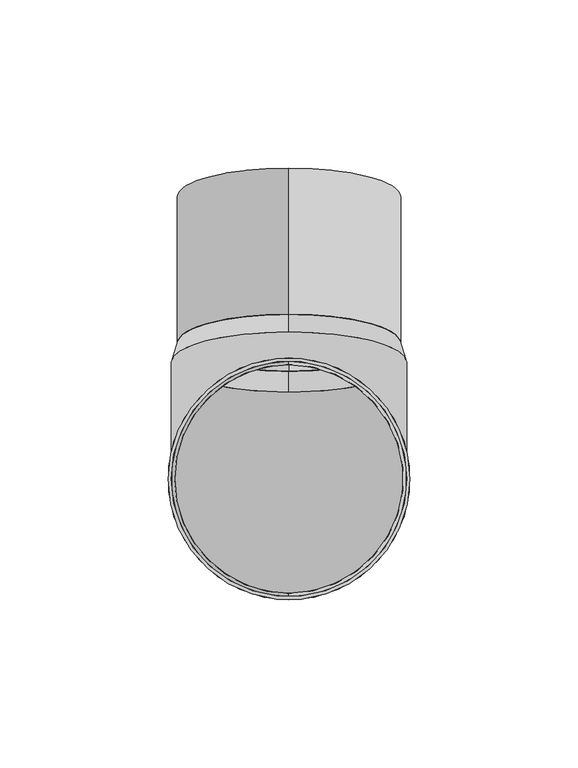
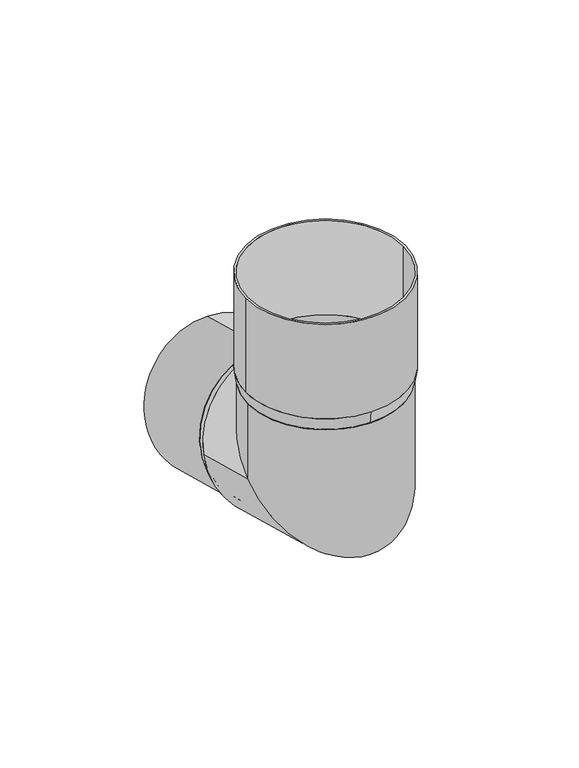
"""IFC4 building model written with IfcOpenShell, lengths in millimetres: proxy geometry, GROVIK_Downpipe_Knee : N70_75°_Down."""

from ifc_helpers import new_model, si_unit, point, frame, origin, origin_with_axes, origin_2d, place, context, project, spatial, polyline, circle_curve, ellipse_curve, trimmed, segment, composite_curve, outline, extrude, source, transform, mapped, element, save
from ifc_brep_helpers import plane_surface, cylinder_surface, revolved_surface, advanced_brep


def generic_models_13b54067(model_context):
    return source(origin(), model_context, "Body", "SolidModel", [
        extrude(outline(composite_curve([segment(trimmed(circle_curve(origin_2d(), 36.0), [point((-36.0, 0.0))], [point((36.0, 0.0))], False, "CARTESIAN"), True, "CONTINUOUS"), segment(trimmed(circle_curve(origin_2d(), 36.0), [point((36.0, 0.0))], [point((-36.0, 0.0))], False, "CARTESIAN"), True, "CONTINUOUS")], self_intersect=False), holes=[composite_curve([segment(trimmed(circle_curve(origin_2d(), 35.0), [point((-35.0, 0.0))], [point((35.0, 0.0))], True, "CARTESIAN"), True, "CONTINUOUS"), segment(trimmed(circle_curve(origin_2d(), 35.0), [point((35.0, 0.0))], [point((-35.0, 0.0))], True, "CARTESIAN"), True, "CONTINUOUS")], self_intersect=False)]), frame((0.0, 0.0, 6.0), z_axis=(0.0, 0.0, 1.0), x_axis=(1.0, 0.0, 0.0)), (0.0, 0.0, 1.0), 45.0),
        advanced_brep(
        [(-35.0, 0.0, 0.0), (35.0, 0.0, 0.0), (-34.0, 0.0, 0.0), (34.0, 0.0, 0.0), (-34.0, 0.0, -35.9), (34.0, 0.0, -35.9), (-35.0, 0.0, -35.9), (35.0, 0.0, -35.9), (-35.0, 34.6767372, -45.1916037), (35.0, 34.6767372, -45.1916037), (-34.0, 34.6767372, -45.1916037), (34.0, 34.6767372, -45.1916037)],
        [
            (0, 1, circle_curve(origin_with_axes(), 35.0)),
            (1, 0, circle_curve(origin_with_axes(), 35.0)),
            (2, 3, circle_curve(frame((0.0, 0.0, 0.0), z_axis=(0.0, 0.0, -1.0), x_axis=(1.0, 0.0, 0.0)), 34.0)),
            (3, 2, circle_curve(frame((0.0, 0.0, 0.0), z_axis=(0.0, 0.0, -1.0), x_axis=(1.0, 0.0, 0.0)), 34.0)),
            (2, 4),
            (4, 5, ellipse_curve(frame((0.0, 0.0, -35.9), z_axis=(0.0, 0.6087614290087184, -0.7933533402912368), x_axis=(0.0, -0.7933533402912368, -0.6087614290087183)), 42.8560621, 34.0)),
            (5, 3),
            (5, 4, ellipse_curve(frame((0.0, 0.0, -35.9), z_axis=(0.0, 0.6087614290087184, -0.7933533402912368), x_axis=(0.0, -0.7933533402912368, -0.6087614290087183)), 42.8560621, 34.0)),
            (0, 6),
            (6, 7, ellipse_curve(frame((0.0, 0.0, -35.9), z_axis=(0.0, -0.6087614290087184, 0.7933533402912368), x_axis=(0.0, 0.7933533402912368, 0.6087614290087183)), 44.1165345, 35.0)),
            (7, 1),
            (7, 6, ellipse_curve(frame((0.0, 0.0, -35.9), z_axis=(0.0, -0.6087614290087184, 0.7933533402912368), x_axis=(0.0, 0.7933533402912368, 0.6087614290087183)), 44.1165345, 35.0)),
            (8, 9, circle_curve(frame((0.0, 34.6767372, -45.1916037), z_axis=(0.0, 0.9659258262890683, -0.2588190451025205), x_axis=(1.0, 0.0, 0.0)), 35.0)),
            (9, 8, circle_curve(frame((0.0, 34.6767372, -45.1916037), z_axis=(0.0, 0.9659258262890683, -0.2588190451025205), x_axis=(1.0, 0.0, 0.0)), 35.0)),
            (10, 11, circle_curve(frame((0.0, 34.6767372, -45.1916037), z_axis=(0.0, -0.9659258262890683, 0.2588190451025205), x_axis=(1.0, 0.0, 0.0)), 34.0)),
            (11, 10, circle_curve(frame((0.0, 34.6767372, -45.1916037), z_axis=(0.0, -0.9659258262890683, 0.2588190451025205), x_axis=(1.0, 0.0, 0.0)), 34.0)),
            (4, 10),
            (11, 5),
            (6, 8),
            (9, 7),
        ],
        [
            plane_surface(origin_with_axes()),
            revolved_surface(polyline([(34.0, 0.0, -61.989117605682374), (34.0, 0.0, 0.0)]), (0.0, 0.0, 0.0), (0.0, 0.0, -1.0)),
            cylinder_surface(origin_with_axes(), 35.0),
            plane_surface(frame((0.0, 34.6767372, -45.1916037), z_axis=(0.0, 0.9659258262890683, -0.2588190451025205), x_axis=(1.0, 0.0, 0.0))),
            revolved_surface(polyline([(34.0, 34.67673719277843, -45.19160372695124), (34.0, -25.200152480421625, -29.147639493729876)]), (0.0, 0.0, -35.9), (0.0, 0.9659258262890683, -0.2588190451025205)),
            cylinder_surface(frame((0.0, 0.0, -35.9), z_axis=(0.0, -0.9659258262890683, 0.2588190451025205), x_axis=(1.0, 0.0, 0.0)), 35.0),
        ],
        [
            (0, [[1, 2], [3, 4]]),
            (1, [[-3, 5, 6, 7]]),
            (1, [[-4, -7, 8, -5]]),
            (2, [[-1, 9, 10, 11]]),
            (2, [[-2, -11, 12, -9]]),
            (3, [[13, 14], [15, 16]]),
            (4, [[-6, 17, -16, 18]]),
            (4, [[-8, -18, -15, -17]]),
            (5, [[-10, 19, -14, 20]]),
            (5, [[-12, -20, -13, -19]]),
        ],
    ),
        extrude(outline(composite_curve([segment(trimmed(circle_curve(origin_2d(), 33.2), [point((0.0, 33.2))], [point((0.0, -33.2000001))], False, "CARTESIAN"), True, "CONTINUOUS"), segment(trimmed(circle_curve(origin_2d(), 33.2), [point((0.0, -33.2000001))], [point((0.0, 33.2))], False, "CARTESIAN"), True, "CONTINUOUS")], self_intersect=False), holes=[composite_curve([segment(trimmed(circle_curve(origin_2d(), 32.2), [point((0.0, 32.2))], [point((0.0, -32.2))], True, "CARTESIAN"), True, "CONTINUOUS"), segment(trimmed(circle_curve(origin_2d(), 32.2), [point((0.0, -32.2))], [point((0.0, 32.2))], True, "CARTESIAN"), True, "CONTINUOUS")], self_intersect=False)]), frame((0.0, 83.9389543, -58.391375), z_axis=(0.0, -0.9659258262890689, 0.2588190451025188), x_axis=(1.0, 0.0, 0.0)), (0.0, 0.0, 1.0), 45.0),
        advanced_brep(
        [(0.0, 36.0, 6.0), (0.0, -36.0, 6.0), (0.0, 35.0, 6.0), (0.0, -35.0, 6.0), (0.0, 35.0, 0.0), (0.0, -35.0, 0.0), (0.0, -34.0, 0.0), (0.0, 34.0, 0.0)],
        [
            (0, 1, circle_curve(frame((0.0, 0.0, 6.0), z_axis=(0.0, 0.0, 1.0), x_axis=(0.0, 1.0, 0.0)), 36.0)),
            (1, 0, circle_curve(frame((0.0, 0.0, 6.0), z_axis=(0.0, 0.0, 1.0), x_axis=(0.0, -1.0, 0.0)), 36.0)),
            (2, 3, circle_curve(frame((0.0, 0.0, 6.0), z_axis=(0.0, 0.0, -1.0), x_axis=(0.0, -1.0, 0.0)), 35.0)),
            (3, 2, circle_curve(frame((0.0, 0.0, 6.0), z_axis=(0.0, 0.0, -1.0), x_axis=(0.0, 1.0, 0.0)), 35.0)),
            (4, 5, circle_curve(frame((0.0, 0.0, 0.0), z_axis=(0.0, 0.0, -1.0), x_axis=(0.0, -1.0, 0.0)), 35.0)),
            (5, 4, circle_curve(frame((0.0, 0.0, 0.0), z_axis=(0.0, 0.0, -1.0), x_axis=(0.0, 1.0, 0.0)), 35.0)),
            (6, 7, circle_curve(frame((0.0, 0.0, 0.0), z_axis=(0.0, 0.0, 1.0), x_axis=(0.0, -1.0, 0.0)), 34.0)),
            (7, 6, circle_curve(frame((0.0, 0.0, 0.0), z_axis=(0.0, 0.0, 1.0), x_axis=(0.0, 1.0, 0.0)), 34.0)),
            (1, 5),
            (4, 0),
            (6, 3),
            (2, 7),
        ],
        [
            plane_surface(frame((0.0, 0.0, 6.0), z_axis=(0.0, 0.0, 1.0), x_axis=(-1.0, 0.0, 0.0))),
            plane_surface(frame((0.0, 0.0, 0.0), z_axis=(0.0, 0.0, -1.0), x_axis=(-1.0, 0.0, 0.0))),
            revolved_surface(polyline([(0.0, 35.0, 0.0), (0.0, 36.0, 6.0)]), (0.0, 0.0, -210.0), (0.0, 0.0, 1.0)),
            revolved_surface(polyline([(0.0, -35.0, 0.0), (0.0, -36.0, 6.0)]), (0.0, 0.0, -210.0), (0.0, 0.0, 1.0)),
            revolved_surface(polyline([(0.0, -35.0, 6.0), (0.0, -34.0, 0.0)]), (0.0, 0.0, -204.0), (0.0, 0.0, 1.0)),
        ],
        [
            (0, [[1, 2], [3, 4]]),
            (1, [[5, 6], [7, 8]]),
            (2, [[-2, 9, -5, 10]]),
            (3, [[-1, -10, -6, -9]]),
            (4, [[11, -3, 12, -7]]),
            (4, [[-11, -8, -12, -4]]),
        ],
    ),
        advanced_brep(
        [(0.0, 31.8794998, -78.8132554), (0.0, 49.0650844, -14.6757806), (0.0, 32.1383189, -77.8473296), (0.0, 48.8062654, -15.6417064), (0.0, 25.6180706, -78.9990076), (0.0, 43.7354037, -11.3841998), (0.0, 43.4765847, -12.3501256), (0.0, 25.8768896, -78.0330818)],
        [
            (0, 1, circle_curve(frame((0.0, 40.4722921, -46.744518), z_axis=(0.0, 0.9659258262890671, -0.2588190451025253), x_axis=(0.0, -0.25881904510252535, -0.965925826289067)), 33.2)),
            (1, 0, circle_curve(frame((0.0, 40.4722921, -46.744518), z_axis=(0.0, 0.9659258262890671, -0.2588190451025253), x_axis=(0.0, 0.2588190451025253, 0.9659258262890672)), 33.2)),
            (2, 3, circle_curve(frame((0.0, 40.4722921, -46.744518), z_axis=(0.0, -0.9659258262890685, 0.25881904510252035), x_axis=(0.0, 0.2588190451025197, 0.9659258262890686)), 32.2)),
            (3, 2, circle_curve(frame((0.0, 40.4722921, -46.744518), z_axis=(0.0, -0.9659258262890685, 0.25881904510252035), x_axis=(0.0, -0.2588190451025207, -0.9659258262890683)), 32.2)),
            (4, 5, circle_curve(frame((0.0, 34.6767372, -45.1916037), z_axis=(0.0, -0.9659258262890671, 0.2588190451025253), x_axis=(0.0, 0.2588190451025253, 0.9659258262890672)), 35.0)),
            (5, 4, circle_curve(frame((0.0, 34.6767372, -45.1916037), z_axis=(0.0, -0.9659258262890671, 0.2588190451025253), x_axis=(0.0, -0.25881904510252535, -0.965925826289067)), 35.0)),
            (6, 7, circle_curve(frame((0.0, 34.6767372, -45.1916037), z_axis=(0.0, 0.9659258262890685, -0.25881904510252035), x_axis=(0.0, 0.2588190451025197, 0.9659258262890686)), 34.0)),
            (7, 6, circle_curve(frame((0.0, 34.6767372, -45.1916037), z_axis=(0.0, 0.9659258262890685, -0.25881904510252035), x_axis=(0.0, -0.2588190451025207, -0.9659258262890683)), 34.0)),
            (1, 5),
            (4, 0),
            (6, 3),
            (2, 7),
        ],
        [
            plane_surface(frame((0.0, 40.4722921, -46.744518), z_axis=(0.0, 0.9659258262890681, -0.25881904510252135), x_axis=(-1.0, 0.0, 0.0))),
            plane_surface(frame((0.0, 34.6767372, -45.1916037), z_axis=(0.0, -0.9659258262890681, 0.25881904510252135), x_axis=(-1.0, 0.0, 0.0))),
            revolved_surface(polyline([(0.0, 49.06508440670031, -14.675780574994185), (0.0, 43.735403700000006, -11.384199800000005)]), (0.0, 147.3680836, -75.387159), (0.0, -0.9659258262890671, 0.2588190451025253)),
            revolved_surface(polyline([(0.0, 31.879499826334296, -78.81325538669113), (0.0, 25.618070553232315, -78.99900760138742)]), (0.0, 147.3680836, -75.387159), (0.0, -0.9659258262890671, 0.2588190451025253)),
            revolved_surface(polyline([(0.0, 43.47658467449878, -12.350125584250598), (0.0, 48.806265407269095, -15.64170637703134)]), (0.0, 144.1483308, -74.5244288), (0.0, -0.9659258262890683, 0.2588190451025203)),
        ],
        [
            (0, [[1, 2], [3, 4]]),
            (1, [[5, 6], [7, 8]]),
            (2, [[-2, 9, -5, 10]]),
            (3, [[-1, -10, -6, -9]]),
            (4, [[11, -3, 12, -7]]),
            (4, [[-11, -8, -12, -4]]),
        ],
    ),
    ])


if __name__ == "__main__":
    model = new_model("IFC4")
    model_context = context("Model", 3, world=origin())
    ifc_project = project(units=[si_unit("LENGTHUNIT", "METRE", prefix="MILLI")], contexts=[model_context])
    site = spatial("IfcSite", under=ifc_project)
    building = spatial("IfcBuilding", under=site)
    placement = place(None, origin())
    generic_models_shape = generic_models_13b54067(model_context)
    element("IfcBuildingElementProxy", 1, Name="GROVIK_Downpipe_Knee : N70_75°_Down", ObjectType="GROVIK_Downpipe_Knee : N70_75°_Down", at=placement, inside=building, context=model_context, shape_type="MappedRepresentation", body=[
        mapped(generic_models_shape, transform((0.0, 0.0, 0.0), x_axis=(1.0, 0.0, 0.0), y_axis=(0.0, 1.0, 0.0), z_axis=(0.0, 0.0, 1.0))),
    ])
    save(model, "model.ifc")
